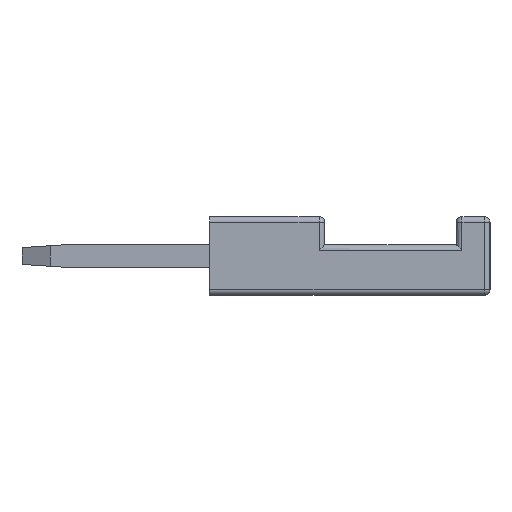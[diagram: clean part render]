
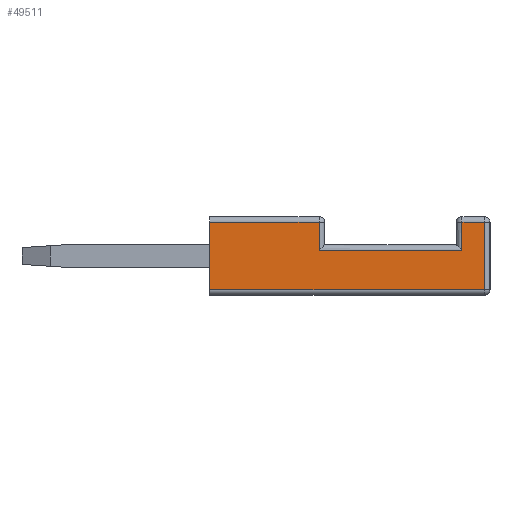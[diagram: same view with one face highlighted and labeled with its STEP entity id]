
A CAD part, left-side view. The second image highlights one B-rep face of the part: STEP entity #49511.
In plain terms, the highlighted planar face has unit normal (-1, 0, 0).
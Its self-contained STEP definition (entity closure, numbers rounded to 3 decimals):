
#8223 = PLANE('',#8224);
#8224 = AXIS2_PLACEMENT_3D('',#8225,#8226,#8227);
#8225 = CARTESIAN_POINT('',(122.7,3.3,1.8));
#8226 = DIRECTION('',(0.,1.,0.));
#8227 = DIRECTION('',(0.,-0.,1.));
#19707 = CYLINDRICAL_SURFACE('',#19708,0.2);
#19708 = AXIS2_PLACEMENT_3D('',#19709,#19710,#19711);
#19709 = CARTESIAN_POINT('',(-0.3,-0.6,1.8));
#19710 = DIRECTION('',(0.,0.,-1.));
#19711 = DIRECTION('',(-1.,0.,0.));
#21335 = VERTEX_POINT('',#21336);
#21336 = CARTESIAN_POINT('',(-0.5,3.3,-0.8));
#21351 = CYLINDRICAL_SURFACE('',#21352,0.2);
#21352 = AXIS2_PLACEMENT_3D('',#21353,#21354,#21355);
#21353 = CARTESIAN_POINT('',(-0.3,-6.7,-0.8));
#21354 = DIRECTION('',(0.,1.,0.));
#21355 = DIRECTION('',(0.,0.,1.));
#21363 = EDGE_CURVE('',#21364,#21335,#21366,.T.);
#21364 = VERTEX_POINT('',#21365);
#21365 = CARTESIAN_POINT('',(-0.5,3.3,1.6));
#21366 = SURFACE_CURVE('',#21367,(#21371,#21378),.PCURVE_S1.);
#21367 = LINE('',#21368,#21369);
#21368 = CARTESIAN_POINT('',(-0.5,3.3,1.8));
#21369 = VECTOR('',#21370,1.);
#21370 = DIRECTION('',(0.,0.,-1.));
#21371 = PCURVE('',#8223,#21372);
#21372 = DEFINITIONAL_REPRESENTATION('',(#21373),#21377);
#21373 = LINE('',#21374,#21375);
#21374 = CARTESIAN_POINT('',(0.,-123.2));
#21375 = VECTOR('',#21376,1.);
#21376 = DIRECTION('',(-1.,0.));
#21377 = ( GEOMETRIC_REPRESENTATION_CONTEXT(2) 
PARAMETRIC_REPRESENTATION_CONTEXT() REPRESENTATION_CONTEXT('2D SPACE',''
  ) );
#21378 = PCURVE('',#21379,#21384);
#21379 = PLANE('',#21380);
#21380 = AXIS2_PLACEMENT_3D('',#21381,#21382,#21383);
#21381 = CARTESIAN_POINT('',(-0.5,-0.8,1.8));
#21382 = DIRECTION('',(1.,0.,0.));
#21383 = DIRECTION('',(0.,0.,-1.));
#21384 = DEFINITIONAL_REPRESENTATION('',(#21385),#21389);
#21385 = LINE('',#21386,#21387);
#21386 = CARTESIAN_POINT('',(0.,4.1));
#21387 = VECTOR('',#21388,1.);
#21388 = DIRECTION('',(1.,0.));
#21389 = ( GEOMETRIC_REPRESENTATION_CONTEXT(2) 
PARAMETRIC_REPRESENTATION_CONTEXT() REPRESENTATION_CONTEXT('2D SPACE',''
  ) );
#21408 = CYLINDRICAL_SURFACE('',#21409,0.2);
#21409 = AXIS2_PLACEMENT_3D('',#21410,#21411,#21412);
#21410 = CARTESIAN_POINT('',(-0.3,3.3,1.6));
#21411 = DIRECTION('',(0.,-1.,0.));
#21412 = DIRECTION('',(0.,0.,-1.));
#28428 = CYLINDRICAL_SURFACE('',#28429,0.2);
#28429 = AXIS2_PLACEMENT_3D('',#28430,#28431,#28432);
#28430 = CARTESIAN_POINT('',(-0.3,-6.5,1.8));
#28431 = DIRECTION('',(0.,0.,-1.));
#28432 = DIRECTION('',(-1.,0.,0.));
#30680 = CYLINDRICAL_SURFACE('',#30681,0.2);
#30681 = AXIS2_PLACEMENT_3D('',#30682,#30683,#30684);
#30682 = CARTESIAN_POINT('',(-0.3,-5.7,1.8));
#30683 = DIRECTION('',(0.,0.,1.));
#30684 = DIRECTION('',(1.,0.,-0.));
#49012 = CYLINDRICAL_SURFACE('',#49013,0.2);
#49013 = AXIS2_PLACEMENT_3D('',#49014,#49015,#49016);
#49014 = CARTESIAN_POINT('',(-0.3,-5.5,1.6));
#49015 = DIRECTION('',(0.,-1.,0.));
#49016 = DIRECTION('',(0.,0.,-1.));
#49337 = CYLINDRICAL_SURFACE('',#49338,0.2);
#49338 = AXIS2_PLACEMENT_3D('',#49339,#49340,#49341);
#49339 = CARTESIAN_POINT('',(-0.3,-0.8,0.6));
#49340 = DIRECTION('',(0.,-1.,0.));
#49341 = DIRECTION('',(0.,0.,-1.));
#49511 = ADVANCED_FACE('',(#49512),#21379,.F.);
#49512 = FACE_BOUND('',#49513,.T.);
#49513 = EDGE_LOOP('',(#49514,#49539,#49562,#49583,#49584,#49607,#49630,
    #49653));
#49514 = ORIENTED_EDGE('',*,*,#49515,.T.);
#49515 = EDGE_CURVE('',#49516,#49518,#49520,.T.);
#49516 = VERTEX_POINT('',#49517);
#49517 = CARTESIAN_POINT('',(-0.5,-5.7,0.6));
#49518 = VERTEX_POINT('',#49519);
#49519 = CARTESIAN_POINT('',(-0.5,-0.6,0.6));
#49520 = SURFACE_CURVE('',#49521,(#49525,#49532),.PCURVE_S1.);
#49521 = LINE('',#49522,#49523);
#49522 = CARTESIAN_POINT('',(-0.5,-0.6,0.6));
#49523 = VECTOR('',#49524,1.);
#49524 = DIRECTION('',(0.,1.,0.));
#49525 = PCURVE('',#21379,#49526);
#49526 = DEFINITIONAL_REPRESENTATION('',(#49527),#49531);
#49527 = LINE('',#49528,#49529);
#49528 = CARTESIAN_POINT('',(1.2,0.2));
#49529 = VECTOR('',#49530,1.);
#49530 = DIRECTION('',(0.,1.));
#49531 = ( GEOMETRIC_REPRESENTATION_CONTEXT(2) 
PARAMETRIC_REPRESENTATION_CONTEXT() REPRESENTATION_CONTEXT('2D SPACE',''
  ) );
#49532 = PCURVE('',#49337,#49533);
#49533 = DEFINITIONAL_REPRESENTATION('',(#49534),#49538);
#49534 = LINE('',#49535,#49536);
#49535 = CARTESIAN_POINT('',(4.712,-0.2));
#49536 = VECTOR('',#49537,1.);
#49537 = DIRECTION('',(0.,-1.));
#49538 = ( GEOMETRIC_REPRESENTATION_CONTEXT(2) 
PARAMETRIC_REPRESENTATION_CONTEXT() REPRESENTATION_CONTEXT('2D SPACE',''
  ) );
#49539 = ORIENTED_EDGE('',*,*,#49540,.T.);
#49540 = EDGE_CURVE('',#49518,#49541,#49543,.T.);
#49541 = VERTEX_POINT('',#49542);
#49542 = CARTESIAN_POINT('',(-0.5,-0.6,1.6));
#49543 = SURFACE_CURVE('',#49544,(#49548,#49555),.PCURVE_S1.);
#49544 = LINE('',#49545,#49546);
#49545 = CARTESIAN_POINT('',(-0.5,-0.6,1.6));
#49546 = VECTOR('',#49547,1.);
#49547 = DIRECTION('',(0.,0.,1.));
#49548 = PCURVE('',#21379,#49549);
#49549 = DEFINITIONAL_REPRESENTATION('',(#49550),#49554);
#49550 = LINE('',#49551,#49552);
#49551 = CARTESIAN_POINT('',(0.2,0.2));
#49552 = VECTOR('',#49553,1.);
#49553 = DIRECTION('',(-1.,0.));
#49554 = ( GEOMETRIC_REPRESENTATION_CONTEXT(2) 
PARAMETRIC_REPRESENTATION_CONTEXT() REPRESENTATION_CONTEXT('2D SPACE',''
  ) );
#49555 = PCURVE('',#19707,#49556);
#49556 = DEFINITIONAL_REPRESENTATION('',(#49557),#49561);
#49557 = LINE('',#49558,#49559);
#49558 = CARTESIAN_POINT('',(6.283,0.2));
#49559 = VECTOR('',#49560,1.);
#49560 = DIRECTION('',(0.,-1.));
#49561 = ( GEOMETRIC_REPRESENTATION_CONTEXT(2) 
PARAMETRIC_REPRESENTATION_CONTEXT() REPRESENTATION_CONTEXT('2D SPACE',''
  ) );
#49562 = ORIENTED_EDGE('',*,*,#49563,.T.);
#49563 = EDGE_CURVE('',#49541,#21364,#49564,.T.);
#49564 = SURFACE_CURVE('',#49565,(#49569,#49576),.PCURVE_S1.);
#49565 = LINE('',#49566,#49567);
#49566 = CARTESIAN_POINT('',(-0.5,-0.8,1.6));
#49567 = VECTOR('',#49568,1.);
#49568 = DIRECTION('',(0.,1.,0.));
#49569 = PCURVE('',#21379,#49570);
#49570 = DEFINITIONAL_REPRESENTATION('',(#49571),#49575);
#49571 = LINE('',#49572,#49573);
#49572 = CARTESIAN_POINT('',(0.2,0.));
#49573 = VECTOR('',#49574,1.);
#49574 = DIRECTION('',(0.,1.));
#49575 = ( GEOMETRIC_REPRESENTATION_CONTEXT(2) 
PARAMETRIC_REPRESENTATION_CONTEXT() REPRESENTATION_CONTEXT('2D SPACE',''
  ) );
#49576 = PCURVE('',#21408,#49577);
#49577 = DEFINITIONAL_REPRESENTATION('',(#49578),#49582);
#49578 = LINE('',#49579,#49580);
#49579 = CARTESIAN_POINT('',(4.712,4.1));
#49580 = VECTOR('',#49581,1.);
#49581 = DIRECTION('',(0.,-1.));
#49582 = ( GEOMETRIC_REPRESENTATION_CONTEXT(2) 
PARAMETRIC_REPRESENTATION_CONTEXT() REPRESENTATION_CONTEXT('2D SPACE',''
  ) );
#49583 = ORIENTED_EDGE('',*,*,#21363,.T.);
#49584 = ORIENTED_EDGE('',*,*,#49585,.T.);
#49585 = EDGE_CURVE('',#21335,#49586,#49588,.T.);
#49586 = VERTEX_POINT('',#49587);
#49587 = CARTESIAN_POINT('',(-0.5,-6.5,-0.8));
#49588 = SURFACE_CURVE('',#49589,(#49593,#49600),.PCURVE_S1.);
#49589 = LINE('',#49590,#49591);
#49590 = CARTESIAN_POINT('',(-0.5,-0.8,-0.8));
#49591 = VECTOR('',#49592,1.);
#49592 = DIRECTION('',(0.,-1.,0.));
#49593 = PCURVE('',#21379,#49594);
#49594 = DEFINITIONAL_REPRESENTATION('',(#49595),#49599);
#49595 = LINE('',#49596,#49597);
#49596 = CARTESIAN_POINT('',(2.6,0.));
#49597 = VECTOR('',#49598,1.);
#49598 = DIRECTION('',(0.,-1.));
#49599 = ( GEOMETRIC_REPRESENTATION_CONTEXT(2) 
PARAMETRIC_REPRESENTATION_CONTEXT() REPRESENTATION_CONTEXT('2D SPACE',''
  ) );
#49600 = PCURVE('',#21351,#49601);
#49601 = DEFINITIONAL_REPRESENTATION('',(#49602),#49606);
#49602 = LINE('',#49603,#49604);
#49603 = CARTESIAN_POINT('',(4.712,5.9));
#49604 = VECTOR('',#49605,1.);
#49605 = DIRECTION('',(0.,-1.));
#49606 = ( GEOMETRIC_REPRESENTATION_CONTEXT(2) 
PARAMETRIC_REPRESENTATION_CONTEXT() REPRESENTATION_CONTEXT('2D SPACE',''
  ) );
#49607 = ORIENTED_EDGE('',*,*,#49608,.T.);
#49608 = EDGE_CURVE('',#49586,#49609,#49611,.T.);
#49609 = VERTEX_POINT('',#49610);
#49610 = CARTESIAN_POINT('',(-0.5,-6.5,1.6));
#49611 = SURFACE_CURVE('',#49612,(#49616,#49623),.PCURVE_S1.);
#49612 = LINE('',#49613,#49614);
#49613 = CARTESIAN_POINT('',(-0.5,-6.5,1.8));
#49614 = VECTOR('',#49615,1.);
#49615 = DIRECTION('',(0.,0.,1.));
#49616 = PCURVE('',#21379,#49617);
#49617 = DEFINITIONAL_REPRESENTATION('',(#49618),#49622);
#49618 = LINE('',#49619,#49620);
#49619 = CARTESIAN_POINT('',(0.,-5.7));
#49620 = VECTOR('',#49621,1.);
#49621 = DIRECTION('',(-1.,0.));
#49622 = ( GEOMETRIC_REPRESENTATION_CONTEXT(2) 
PARAMETRIC_REPRESENTATION_CONTEXT() REPRESENTATION_CONTEXT('2D SPACE',''
  ) );
#49623 = PCURVE('',#28428,#49624);
#49624 = DEFINITIONAL_REPRESENTATION('',(#49625),#49629);
#49625 = LINE('',#49626,#49627);
#49626 = CARTESIAN_POINT('',(6.283,0.));
#49627 = VECTOR('',#49628,1.);
#49628 = DIRECTION('',(0.,-1.));
#49629 = ( GEOMETRIC_REPRESENTATION_CONTEXT(2) 
PARAMETRIC_REPRESENTATION_CONTEXT() REPRESENTATION_CONTEXT('2D SPACE',''
  ) );
#49630 = ORIENTED_EDGE('',*,*,#49631,.T.);
#49631 = EDGE_CURVE('',#49609,#49632,#49634,.T.);
#49632 = VERTEX_POINT('',#49633);
#49633 = CARTESIAN_POINT('',(-0.5,-5.7,1.6));
#49634 = SURFACE_CURVE('',#49635,(#49639,#49646),.PCURVE_S1.);
#49635 = LINE('',#49636,#49637);
#49636 = CARTESIAN_POINT('',(-0.5,-0.8,1.6));
#49637 = VECTOR('',#49638,1.);
#49638 = DIRECTION('',(0.,1.,0.));
#49639 = PCURVE('',#21379,#49640);
#49640 = DEFINITIONAL_REPRESENTATION('',(#49641),#49645);
#49641 = LINE('',#49642,#49643);
#49642 = CARTESIAN_POINT('',(0.2,0.));
#49643 = VECTOR('',#49644,1.);
#49644 = DIRECTION('',(0.,1.));
#49645 = ( GEOMETRIC_REPRESENTATION_CONTEXT(2) 
PARAMETRIC_REPRESENTATION_CONTEXT() REPRESENTATION_CONTEXT('2D SPACE',''
  ) );
#49646 = PCURVE('',#49012,#49647);
#49647 = DEFINITIONAL_REPRESENTATION('',(#49648),#49652);
#49648 = LINE('',#49649,#49650);
#49649 = CARTESIAN_POINT('',(4.712,-4.7));
#49650 = VECTOR('',#49651,1.);
#49651 = DIRECTION('',(0.,-1.));
#49652 = ( GEOMETRIC_REPRESENTATION_CONTEXT(2) 
PARAMETRIC_REPRESENTATION_CONTEXT() REPRESENTATION_CONTEXT('2D SPACE',''
  ) );
#49653 = ORIENTED_EDGE('',*,*,#49654,.T.);
#49654 = EDGE_CURVE('',#49632,#49516,#49655,.T.);
#49655 = SURFACE_CURVE('',#49656,(#49660,#49667),.PCURVE_S1.);
#49656 = LINE('',#49657,#49658);
#49657 = CARTESIAN_POINT('',(-0.5,-5.7,0.8));
#49658 = VECTOR('',#49659,1.);
#49659 = DIRECTION('',(0.,0.,-1.));
#49660 = PCURVE('',#21379,#49661);
#49661 = DEFINITIONAL_REPRESENTATION('',(#49662),#49666);
#49662 = LINE('',#49663,#49664);
#49663 = CARTESIAN_POINT('',(1.,-4.9));
#49664 = VECTOR('',#49665,1.);
#49665 = DIRECTION('',(1.,0.));
#49666 = ( GEOMETRIC_REPRESENTATION_CONTEXT(2) 
PARAMETRIC_REPRESENTATION_CONTEXT() REPRESENTATION_CONTEXT('2D SPACE',''
  ) );
#49667 = PCURVE('',#30680,#49668);
#49668 = DEFINITIONAL_REPRESENTATION('',(#49669),#49673);
#49669 = LINE('',#49670,#49671);
#49670 = CARTESIAN_POINT('',(3.142,-1.));
#49671 = VECTOR('',#49672,1.);
#49672 = DIRECTION('',(0.,-1.));
#49673 = ( GEOMETRIC_REPRESENTATION_CONTEXT(2) 
PARAMETRIC_REPRESENTATION_CONTEXT() REPRESENTATION_CONTEXT('2D SPACE',''
  ) );
